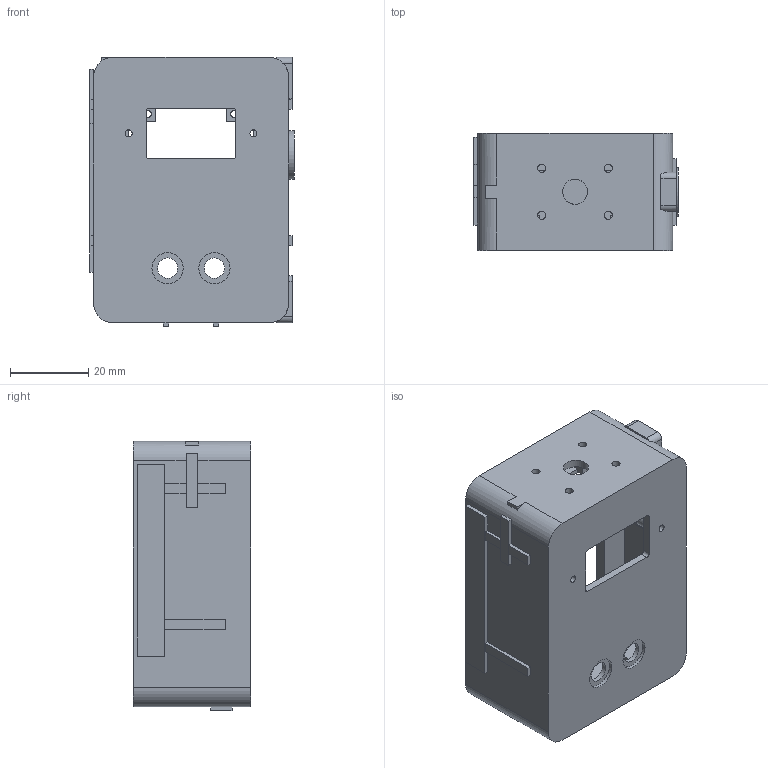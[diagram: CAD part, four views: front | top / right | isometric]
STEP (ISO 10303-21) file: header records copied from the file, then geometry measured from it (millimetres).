
FILE_DESCRIPTION(('Open CASCADE Model'),'2;1');
FILE_NAME('main_front_housing','2026-10-06T17:21:02',('Author'),( 'Open CASCADE'),'Open CASCADE STEP processor 7.9','build123d', 'Unknown');
FILE_SCHEMA(('AUTOMOTIVE_DESIGN { 1 0 10303 214 1 1 1 1 }'));
Length unit declared in the file: millimetre
Products named in the file (2): main_front_housing
Assembly tree (1 placements, depth 2):
  main_front_housing
    main_front_housing
Bounding box: 52.5 x 30 x 69 mm (x, y, z)
Volume: 24798.2 mm3; surface area: 25713.3 mm2
Topology: 1 solids, 1 shells, 261 faces, 742 edges, 491 vertices
Faces by surface type: plane 197, cylinder 64
Full cylindrical faces by diameter (mm): 1.7 x4, 1.8 x2, 2.1 x8, 3.2 x1, 4.4 x2, 4.6 x2, 5.2 x2, 6.4 x1, 7 x1, 7.6 x1, 8 x2, 12.4 x1
Entity records: 18588 total; most frequent: CARTESIAN_POINT 4235, DIRECTION 2488, LINE 1507, VECTOR 1507, ORIENTED_EDGE 1484, PCURVE 1484, DEFINITIONAL_REPRESENTATION 1484, EDGE_CURVE 742
